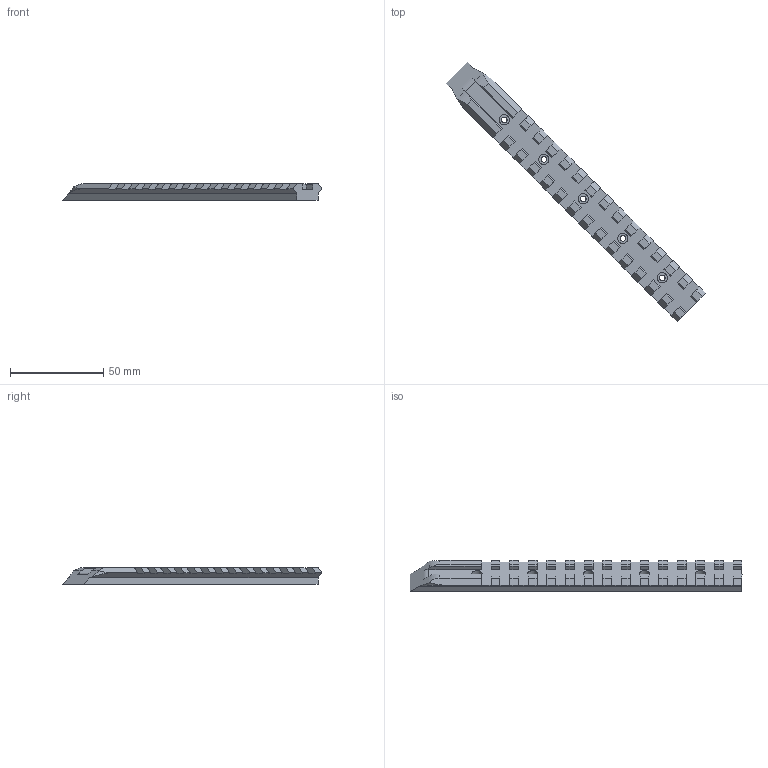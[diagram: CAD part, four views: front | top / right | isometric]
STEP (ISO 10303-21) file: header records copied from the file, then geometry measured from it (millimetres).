
FILE_DESCRIPTION(/* description */ (''),/* implementation_level */ '2;1');
FILE_NAME(/* name */ 'D:/Pew Pews/FGC-9_MkII_Stingray_Edition/Stingray Edition/.step files/1 - Upper/Top Rail Back Half.step',/* time_stamp */ '2022-05-11T21:21:49-06:00',/* author */ (''),/* organization */ (''),/* preprocessor_version */ 'ST-DEVELOPER v18.1',/* originating_system */ 'Autodesk Translation Framework v10.10.0.1391',/* authorisation */ '');
FILE_SCHEMA (('AUTOMOTIVE_DESIGN { 1 0 10303 214 3 1 1 }'));
Length unit declared in the file: millimetre
Products named in the file (1): Top Rail tall back (1)
Bounding box: 139.45 x 139.45 x 9 mm (x, y, z)
Volume: 20576.2 mm3; surface area: 11407.3 mm2
Topology: 1 solids, 1 shells, 206 faces, 595 edges, 396 vertices
Faces by surface type: plane 191, cylinder 15
Full cylindrical faces by diameter (mm): 3 x5, 5.5 x5
Entity records: 6721 total; most frequent: CARTESIAN_POINT 1204, ORIENTED_EDGE 1190, DIRECTION 1043, EDGE_CURVE 595, LINE 557, VECTOR 557, VERTEX_POINT 396, AXIS2_PLACEMENT_3D 243
